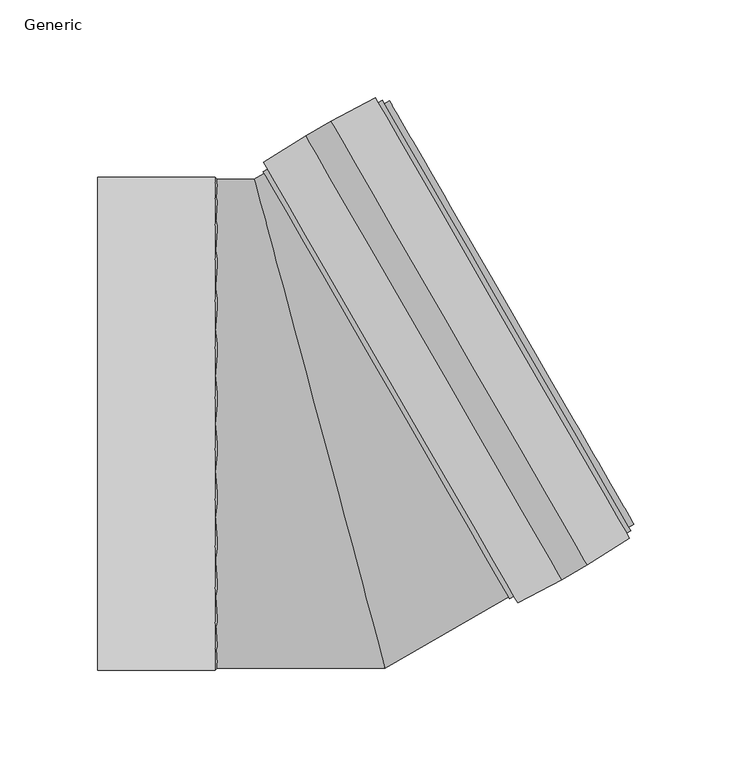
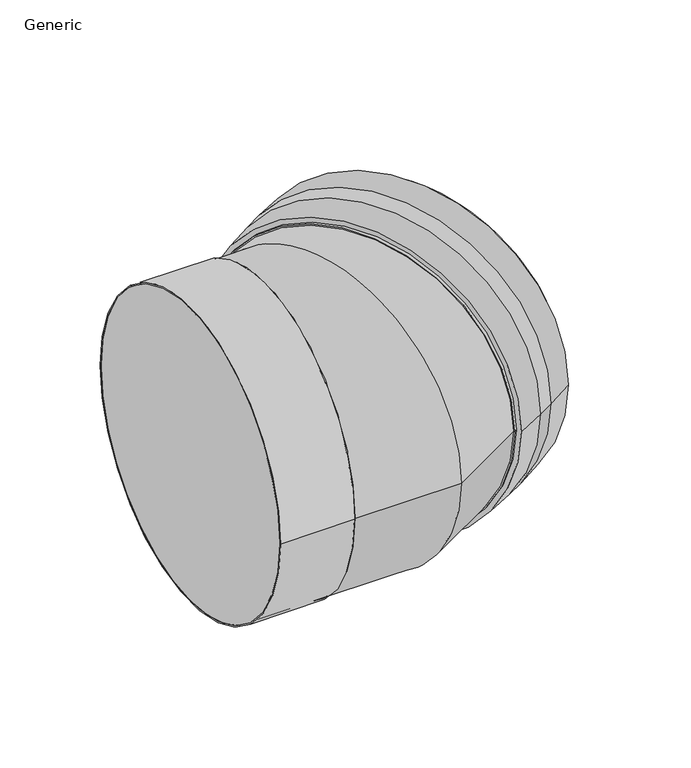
"""IFC4 building model written with IfcOpenShell, lengths in millimetres: pipe fitting geometry, CADS_Jeremias_Elbow_Socket1 : Generic."""

from ifc_helpers import new_model, si_unit, point, frame, origin, place, context, project, spatial, polyline, circle_curve, ellipse_curve, trimmed, source, transform, mapped, element, save
from ifc_brep_helpers import plane_surface, cylinder_surface, revolved_surface, advanced_brep


def generic_511fdfb4(model_context):
    return source(origin(), model_context, "Body", "AdvancedBrep", [
        advanced_brep(
        [(29.9942708, 163.9641687, 0.0), (32.1593343, 165.2141687, 0.0), (159.1593343, -54.7562839, 0.0), (156.9942708, -56.0062839, 0.0), (158.1593343, -53.0242331, 0.0), (33.1593343, 163.4821179, 0.0), (96.7025034, -88.5063509, 0.0), (-28.2974966, 128.0, 0.0), (97.2056481, -89.3778232, 0.0), (99.3707116, -88.1278232, 0.0), (-26.6355778, 130.1214722, 0.0), (-28.8006414, 128.8714722, 0.0), (28.4942708, 166.5622449, 0.0), (158.4942708, -58.6043601, 0.0), (101.3675669, -91.586478, 0.0), (-28.6324331, 133.580127, 0.0), (136.9170227, -72.195706, 0.0), (5.935196, 154.6714729, 0.0), (123.9266417, -79.695706, 0.0), (-7.0551851, 147.1714729, 0.0)],
        [
            (0, 1),
            (1, 2, circle_curve(frame((95.6593343, 55.2289424, 0.0), z_axis=(-0.866025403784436, -0.5000000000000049, 0.0), x_axis=(0.5000000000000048, -0.8660254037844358, 0.0)), 127.0)),
            (2, 3),
            (3, 0, circle_curve(frame((93.4942708, 53.9789424, 0.0), z_axis=(0.866025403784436, 0.5000000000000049, 0.0), x_axis=(0.5000000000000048, -0.8660254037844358, 0.0)), 127.0)),
            (1, 2, circle_curve(frame((95.6593343, 55.2289424, 0.0), z_axis=(0.866025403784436, 0.5000000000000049, 0.0), x_axis=(-0.5000000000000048, 0.8660254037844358, 0.0)), 127.0)),
            (4, 5, circle_curve(frame((95.6593343, 55.2289424, 0.0), z_axis=(-0.866025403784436, -0.5000000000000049, 0.0), x_axis=(-0.5000000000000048, 0.8660254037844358, 0.0)), 125.0)),
            (5, 4, circle_curve(frame((95.6593343, 55.2289424, 0.0), z_axis=(-0.866025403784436, -0.5000000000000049, 0.0), x_axis=(0.5000000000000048, -0.8660254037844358, 0.0)), 125.0)),
            (4, 6),
            (6, 7, circle_curve(frame((34.2025034, 19.7468245, 0.0), z_axis=(-0.866025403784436, -0.5000000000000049, 0.0), x_axis=(-0.5000000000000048, 0.8660254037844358, 0.0)), 125.0)),
            (7, 5),
            (0, 3, circle_curve(frame((93.4942708, 53.9789424, 0.0), z_axis=(0.866025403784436, 0.5000000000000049, 0.0), x_axis=(-0.5000000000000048, 0.8660254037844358, 0.0)), 127.0)),
            (8, 9),
            (9, 10, circle_curve(frame((36.3675669, 20.9968245, 0.0), z_axis=(-0.866025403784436, -0.5000000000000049, 0.0), x_axis=(-0.5000000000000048, 0.8660254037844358, 0.0)), 126.0062895)),
            (10, 11),
            (11, 8, circle_curve(frame((34.2025034, 19.7468245, 0.0), z_axis=(0.866025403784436, 0.5000000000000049, 0.0), x_axis=(-0.5000000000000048, 0.8660254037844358, 0.0)), 126.0062895)),
            (11, 8, circle_curve(frame((34.2025034, 19.7468245, 0.0), z_axis=(-0.866025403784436, -0.5000000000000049, 0.0), x_axis=(0.5000000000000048, -0.8660254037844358, 0.0)), 126.0062895)),
            (6, 7, circle_curve(frame((34.2025034, 19.7468245, 0.0), z_axis=(0.866025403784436, 0.5000000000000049, 0.0), x_axis=(0.5000000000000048, -0.8660254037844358, 0.0)), 125.0)),
            (12, 13, circle_curve(frame((93.4942708, 53.9789424, 0.0), z_axis=(0.866025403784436, 0.5000000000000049, 0.0), x_axis=(-0.5000000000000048, 0.8660254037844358, 0.0)), 130.0)),
            (13, 12, circle_curve(frame((93.4942708, 53.9789424, 0.0), z_axis=(0.866025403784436, 0.5000000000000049, 0.0), x_axis=(0.5000000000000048, -0.8660254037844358, 0.0)), 130.0)),
            (14, 15, circle_curve(frame((36.3675669, 20.9968245, 0.0), z_axis=(-0.866025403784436, -0.5000000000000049, 0.0), x_axis=(-0.5000000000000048, 0.8660254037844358, 0.0)), 130.0)),
            (15, 14, circle_curve(frame((36.3675669, 20.9968245, 0.0), z_axis=(-0.866025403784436, -0.5000000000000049, 0.0), x_axis=(0.5000000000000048, -0.8660254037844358, 0.0)), 130.0)),
            (9, 10, circle_curve(frame((36.3675669, 20.9968245, 0.0), z_axis=(0.866025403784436, 0.5000000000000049, 0.0), x_axis=(0.5000000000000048, -0.8660254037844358, 0.0)), 126.0062895)),
            (16, 13, circle_curve(frame((-28.6677628, 214.6055556, 0.0), z_axis=(0.0, 0.0, 1.0), x_axis=(-0.5000000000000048, 0.8660254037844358, 0.0)), 331.1695712)),
            (12, 17, circle_curve(frame((171.5199815, -132.1297887, 0.0), z_axis=(0.0, 0.0, 1.0), x_axis=(0.5000000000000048, -0.8660254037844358, 0.0)), 331.1695712)),
            (17, 16, circle_curve(frame((71.4261094, 41.2378835, 0.0), z_axis=(0.866025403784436, 0.5000000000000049, 0.0), x_axis=(-0.5000000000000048, 0.8660254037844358, 0.0)), 130.9818268)),
            (18, 16),
            (17, 19),
            (19, 18, circle_curve(frame((58.4357283, 33.7378835, 0.0), z_axis=(0.866025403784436, 0.5000000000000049, 0.0), x_axis=(-0.5000000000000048, 0.8660254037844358, 0.0)), 130.9818268)),
            (14, 18, circle_curve(frame((-41.6581439, 207.1055556, 0.0), z_axis=(0.0, 0.0, 1.0), x_axis=(-0.5000000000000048, 0.8660254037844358, 0.0)), 331.1695712)),
            (19, 15, circle_curve(frame((158.5296005, -139.6297887, 0.0), z_axis=(0.0, 0.0, 1.0), x_axis=(0.5000000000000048, -0.8660254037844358, 0.0)), 331.1695712)),
            (16, 17, circle_curve(frame((71.4261094, 41.2378835, 0.0), z_axis=(0.866025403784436, 0.5000000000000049, 0.0), x_axis=(0.5000000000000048, -0.8660254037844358, 0.0)), 130.9818268)),
            (18, 19, circle_curve(frame((58.4357283, 33.7378835, 0.0), z_axis=(0.866025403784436, 0.5000000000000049, 0.0), x_axis=(0.5000000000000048, -0.8660254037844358, 0.0)), 130.9818268)),
        ],
        [
            cylinder_surface(frame((46.326859, 26.7468245, 0.0), z_axis=(-0.8660254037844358, -0.5000000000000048, 0.0), x_axis=(0.5000000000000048, -0.8660254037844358, 0.0)), 127.0),
            plane_surface(frame((95.6593343, 55.2289424, 0.0), z_axis=(0.8660254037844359, 0.5000000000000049, 0.0), x_axis=(0.5000000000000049, -0.8660254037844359, 0.0))),
            revolved_surface(polyline([(-28.297496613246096, 127.99999999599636, 0.0), (33.159334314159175, 163.48211787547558, 0.0)]), (46.326859, 26.7468245, 0.0), (-0.8660254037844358, -0.5000000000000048, 0.0)),
            cylinder_surface(frame((46.326859, 26.7468245, 0.0), z_axis=(-0.8660254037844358, -0.5000000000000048, 0.0), x_axis=(-0.5000000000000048, 0.8660254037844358, 0.0)), 127.0),
            cylinder_surface(frame((46.326859, 26.7468245, 0.0), z_axis=(-0.8660254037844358, -0.5000000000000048, 0.0), x_axis=(-0.5000000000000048, 0.8660254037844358, 0.0)), 126.0062895),
            plane_surface(frame((34.2025034, 19.7468245, 0.0), z_axis=(-0.8660254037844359, -0.5000000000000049, 0.0), x_axis=(0.5000000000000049, -0.8660254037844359, 0.0))),
            revolved_surface(polyline([(96.7025033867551, -88.5063509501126, 0.0), (158.15933431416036, -53.0242330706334, 0.0)]), (46.326859, 26.7468245, 0.0), (-0.8660254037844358, -0.5000000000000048, 0.0)),
            plane_surface(frame((93.4942708, 53.9789424, 0.0), z_axis=(0.8660254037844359, 0.5000000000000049, 0.0), x_axis=(0.5000000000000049, -0.8660254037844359, 0.0))),
            plane_surface(frame((36.3675669, 20.9968245, 0.0), z_axis=(-0.8660254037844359, -0.5000000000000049, 0.0), x_axis=(0.5000000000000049, -0.8660254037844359, 0.0))),
            cylinder_surface(frame((46.326859, 26.7468245, 0.0), z_axis=(-0.8660254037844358, -0.5000000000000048, 0.0), x_axis=(0.5000000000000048, -0.8660254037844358, 0.0)), 126.0062895),
            revolved_surface(trimmed(ellipse_curve(frame((171.5199815, -132.1297887, 0.0), z_axis=(0.0, 0.0, 1.0), x_axis=(0.5000000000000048, -0.8660254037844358, 0.0)), 331.1695712, 331.1695712), [point((28.4942708, 166.5622449, 0.0))], [point((5.935196, 154.6714729, 0.0))], True, "CARTESIAN"), (46.326859, 26.7468245, 0.0), (-0.8660254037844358, -0.5000000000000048, 0.0)),
            cylinder_surface(frame((46.326859, 26.7468245, 0.0), z_axis=(-0.8660254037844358, -0.5000000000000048, 0.0), x_axis=(-0.5000000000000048, 0.8660254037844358, 0.0)), 130.9818268),
            revolved_surface(trimmed(ellipse_curve(frame((158.5296005, -139.6297887, 0.0), z_axis=(0.0, 0.0, 1.0), x_axis=(0.5000000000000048, -0.8660254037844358, 0.0)), 331.1695712, 331.1695712), [point((-7.0551851, 147.1714729, 0.0))], [point((-28.6324331, 133.580127, 0.0))], True, "CARTESIAN"), (46.326859, 26.7468245, 0.0), (-0.8660254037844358, -0.5000000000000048, 0.0)),
            revolved_surface(trimmed(ellipse_curve(frame((-28.6677628, 214.6055556, 0.0), z_axis=(0.0, 0.0, -1.0), x_axis=(-0.5000000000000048, 0.8660254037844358, 0.0)), 331.1695712, 331.1695712), [point((158.4942708, -58.6043601, 0.0))], [point((136.9170227, -72.195706, 0.0))], True, "CARTESIAN"), (46.326859, 26.7468245, 0.0), (-0.8660254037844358, -0.5000000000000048, 0.0)),
            cylinder_surface(frame((46.326859, 26.7468245, 0.0), z_axis=(-0.8660254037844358, -0.5000000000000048, 0.0), x_axis=(0.5000000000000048, -0.8660254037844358, 0.0)), 130.9818268),
            revolved_surface(trimmed(ellipse_curve(frame((-41.6581439, 207.1055556, 0.0), z_axis=(0.0, 0.0, -1.0), x_axis=(-0.5000000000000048, 0.8660254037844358, 0.0)), 331.1695712, 331.1695712), [point((123.9266417, -79.695706, 0.0))], [point((101.3675669, -91.586478, 0.0))], True, "CARTESIAN"), (46.326859, 26.7468245, 0.0), (-0.8660254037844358, -0.5000000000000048, 0.0)),
        ],
        [
            (0, [[1, 2, 3, 4]]),
            (1, [[5, -2], [6, 7]]),
            (2, [[8, 9, 10, -6]]),
            (3, [[-3, -5, -1, 11]]),
            (4, [[12, 13, 14, 15]]),
            (5, [[-15, 16], [-9, 17]]),
            (6, [[-10, -17, -8, -7]]),
            (7, [[18, 19], [-11, -4]]),
            (8, [[20, 21], [-13, 22]]),
            (9, [[-14, -22, -12, -16]]),
            (10, [[23, -18, 24, 25]]),
            (11, [[26, -25, 27, 28]]),
            (12, [[29, -28, 30, -20]]),
            (13, [[-24, -19, -23, 31]]),
            (14, [[-27, -31, -26, 32]]),
            (15, [[-30, -32, -29, -21]]),
        ],
    ),
        advanced_brep(
        [(-53.4936491, 126.0, 0.0), (-53.4936491, -126.0, 0.0), (-113.4936491, -126.0, 0.0), (-113.4936491, 126.0, 0.0), (-52.4936491, 125.0, 0.0), (-52.4936491, -125.0, 0.0), (-113.4936491, 125.0, 0.0), (-113.4936491, -125.0, 0.0)],
        [
            (0, 1, circle_curve(frame((-53.4936491, 0.0, 0.0), z_axis=(-1.0, 0.0, 0.0), x_axis=(0.0, -1.0, 0.0)), 126.0)),
            (1, 2),
            (2, 3, circle_curve(frame((-113.4936491, 0.0, 0.0), z_axis=(1.0, 0.0, 0.0), x_axis=(0.0, -1.0, 0.0)), 126.0)),
            (3, 0),
            (4, 5, circle_curve(frame((-52.4936491, 0.0, 0.0), z_axis=(-1.0, 0.0, 0.0), x_axis=(0.0, -1.0, 0.0)), 125.0)),
            (5, 1),
            (0, 4),
            (6, 7, circle_curve(frame((-113.4936491, 0.0, 0.0), z_axis=(-1.0, 0.0, 0.0), x_axis=(0.0, -1.0, 0.0)), 125.0)),
            (7, 5),
            (4, 6),
            (2, 3, circle_curve(frame((-113.4936491, 0.0, 0.0), z_axis=(-1.0, 0.0, 0.0), x_axis=(0.0, 1.0, 0.0)), 126.0)),
            (6, 7, circle_curve(frame((-113.4936491, 0.0, 0.0), z_axis=(1.0, 0.0, 0.0), x_axis=(0.0, 1.0, 0.0)), 125.0)),
            (1, 0, circle_curve(frame((-53.4936491, 0.0, 0.0), z_axis=(-1.0, 0.0, 0.0), x_axis=(0.0, 1.0, 0.0)), 126.0)),
            (5, 4, circle_curve(frame((-52.4936491, 0.0, 0.0), z_axis=(-1.0, 0.0, 0.0), x_axis=(0.0, 1.0, 0.0)), 125.0)),
        ],
        [
            cylinder_surface(frame((-113.4936491, 0.0, 0.0), z_axis=(1.0, 0.0, 0.0), x_axis=(0.0, -1.0, 0.0)), 126.0),
            revolved_surface(polyline([(-53.4936491, -126.0, 0.0), (-52.4936491, -125.0, 0.0)]), (-113.4936491, 0.0, 0.0), (1.0, 0.0, 0.0)),
            revolved_surface(polyline([(-52.4936491, -125.0, 0.0), (-113.4936491, -125.0, 0.0)]), (-113.4936491, 0.0, 0.0), (1.0, 0.0, 0.0)),
            plane_surface(frame((-113.4936491, 0.0, 0.0), z_axis=(-1.0, 0.0, 0.0), x_axis=(0.0, 1.0, 0.0))),
            cylinder_surface(frame((-113.4936491, 0.0, 0.0), z_axis=(1.0, 0.0, 0.0), x_axis=(0.0, 1.0, 0.0)), 126.0),
            revolved_surface(polyline([(-53.4936491, 126.0, 0.0), (-52.4936491, 125.0, 0.0)]), (-113.4936491, 0.0, 0.0), (1.0, 0.0, 0.0)),
            revolved_surface(polyline([(-52.4936491, 125.0, 0.0), (-113.4936491, 125.0, 0.0)]), (-113.4936491, 0.0, 0.0), (1.0, 0.0, 0.0)),
        ],
        [
            (0, [[1, 2, 3, 4]]),
            (1, [[5, 6, -1, 7]]),
            (2, [[8, 9, -5, 10]]),
            (3, [[11, -3], [12, -8]]),
            (4, [[13, -4, -11, -2]]),
            (5, [[14, -7, -13, -6]]),
            (6, [[-12, -10, -14, -9]]),
        ],
    ),
        advanced_brep(
        [(-113.4936491, -125.0, 0.0), (-113.4936491, 125.0, 0.0), (-53.4936491, 125.0, 0.0), (-53.4936491, -125.0, 0.0), (33.4936491, -125.0, 0.0), (-33.4936491, 125.0, 0.0), (108.826859, -81.5063509, 0.0), (-16.173141, 135.0, 0.0), (160.7883832, -51.5063509, 0.0), (35.7883832, 165.0, 0.0)],
        [
            (0, 1, circle_curve(frame((-113.4936491, 0.0, 0.0), z_axis=(-1.0, 0.0, 0.0), x_axis=(0.0, 1.0, 0.0)), 125.0)),
            (1, 0, circle_curve(frame((-113.4936491, 0.0, 0.0), z_axis=(-1.0, 0.0, 0.0), x_axis=(0.0, 1.0, 0.0)), 125.0)),
            (2, 3, circle_curve(frame((-53.4936491, 0.0, 0.0), z_axis=(1.0, 0.0, 0.0), x_axis=(0.0, 1.0, 0.0)), 125.0)),
            (3, 4),
            (4, 5, ellipse_curve(frame((0.0, 0.0, 0.0), z_axis=(-0.9659258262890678, -0.2588190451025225, 0.0), x_axis=(-0.25881904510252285, 0.9659258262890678, 0.0)), 129.4095226, 125.0)),
            (5, 2),
            (3, 2, circle_curve(frame((-53.4936491, 0.0, 0.0), z_axis=(1.0, 0.0, 0.0), x_axis=(0.0, 1.0, 0.0)), 125.0)),
            (5, 4, ellipse_curve(frame((0.0, 0.0, 0.0), z_axis=(-0.9659258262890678, -0.2588190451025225, 0.0), x_axis=(-0.25881904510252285, 0.9659258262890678, 0.0)), 129.4095226, 125.0)),
            (4, 6),
            (6, 7, circle_curve(frame((46.326859, 26.7468245, 0.0), z_axis=(-0.8660254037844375, -0.5000000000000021, 0.0), x_axis=(-0.5000000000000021, 0.8660254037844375, 0.0)), 125.0)),
            (7, 5),
            (7, 6, circle_curve(frame((46.326859, 26.7468245, 0.0), z_axis=(-0.8660254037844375, -0.5000000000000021, 0.0), x_axis=(-0.5000000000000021, 0.8660254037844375, 0.0)), 125.0)),
            (8, 9, circle_curve(frame((98.2883832, 56.7468245, 0.0), z_axis=(0.8660254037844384, 0.5000000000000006, 0.0), x_axis=(-0.5000000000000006, 0.8660254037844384, 0.0)), 125.0)),
            (9, 8, circle_curve(frame((98.2883832, 56.7468245, 0.0), z_axis=(0.8660254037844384, 0.5000000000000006, 0.0), x_axis=(-0.5000000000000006, 0.8660254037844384, 0.0)), 125.0)),
            (6, 8),
            (9, 7),
            (0, 3),
            (2, 1),
        ],
        [
            plane_surface(frame((-113.4936491, 0.0, 0.0), z_axis=(-1.0, 0.0, 0.0), x_axis=(0.0, 0.0, 1.0))),
            cylinder_surface(frame((-53.4936491, 0.0, 0.0), z_axis=(-1.0, 0.0, 0.0), x_axis=(0.0, 1.0, 0.0)), 125.0),
            cylinder_surface(frame((0.0, 0.0, 0.0), z_axis=(-0.8660254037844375, -0.5000000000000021, 0.0), x_axis=(-0.5000000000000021, 0.8660254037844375, 0.0)), 125.0),
            plane_surface(frame((98.2883832, 56.7468245, 0.0), z_axis=(0.8660254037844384, 0.5000000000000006, 0.0), x_axis=(0.0, 0.0, 1.0))),
            cylinder_surface(frame((46.326859, 26.7468245, 0.0), z_axis=(-0.8660254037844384, -0.5000000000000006, 0.0), x_axis=(-0.5000000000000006, 0.8660254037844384, 0.0)), 125.0),
            cylinder_surface(frame((-113.4936491, 0.0, 0.0), z_axis=(-1.0, 0.0, 0.0), x_axis=(0.0, 1.0, 0.0)), 125.0),
        ],
        [
            (0, [[1, 2]]),
            (1, [[3, 4, 5, 6]]),
            (1, [[7, -6, 8, -4]]),
            (2, [[-5, 9, 10, 11]]),
            (2, [[-8, -11, 12, -9]]),
            (3, [[13, 14]]),
            (4, [[-10, 15, -14, 16]]),
            (4, [[-12, -16, -13, -15]]),
            (5, [[-1, 17, -3, 18]]),
            (5, [[-2, -18, -7, -17]]),
        ],
    ),
    ])


if __name__ == "__main__":
    model = new_model("IFC4")
    model_context = context("Model", 3, world=origin())
    ifc_project = project(units=[si_unit("LENGTHUNIT", "METRE", prefix="MILLI")], contexts=[model_context])
    site = spatial("IfcSite", under=ifc_project)
    building = spatial("IfcBuilding", under=site)
    placement = place(None, origin())
    generic_shape = generic_511fdfb4(model_context)
    element("IfcPipeFitting", 1, ObjectType="CADS_Jeremias_Elbow_Socket1 : Generic", at=placement, inside=building, context=model_context, shape_type="MappedRepresentation", body=[
        mapped(generic_shape, transform((0.0, 0.0, 0.0), x_axis=(1.0, 0.0, 0.0), y_axis=(0.0, 1.0, 0.0), z_axis=(0.0, 0.0, 1.0))),
    ])
    save(model, "model.ifc")
